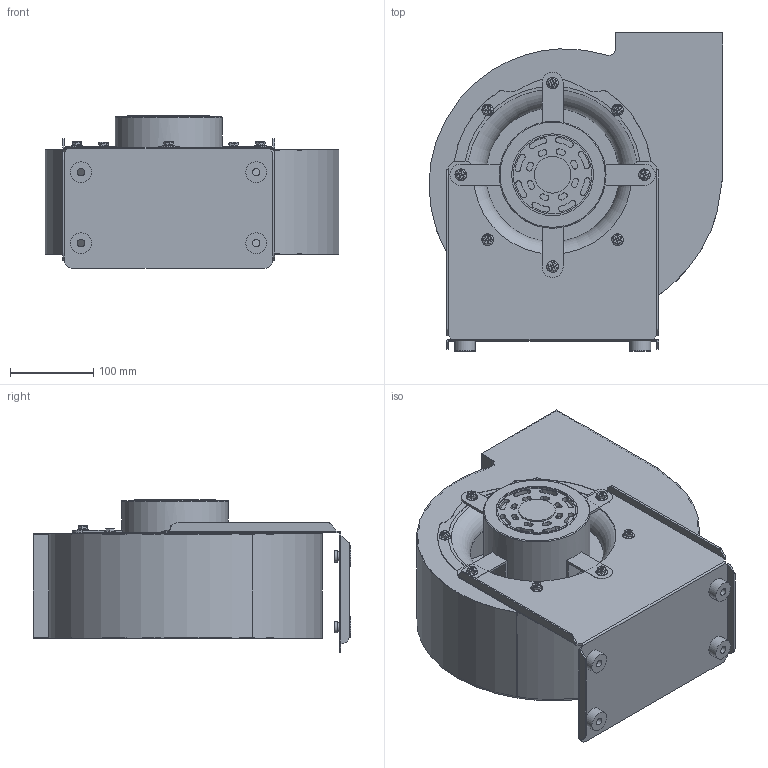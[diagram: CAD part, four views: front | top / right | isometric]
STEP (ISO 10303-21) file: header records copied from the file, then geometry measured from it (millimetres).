
FILE_DESCRIPTION(/* description */ ('Unknown'),/* implementation_level */ '2;1');
FILE_NAME(/* name */ 'CY200BK2P3V-M',/* time_stamp */ '2026-05-06T15:30:45+08:00',/* author */ ('Unknown'),/* organization */ ('Unknown'),/* preprocessor_version */ 'ST-DEVELOPER v20',/* originating_system */ 'Solid Edge',/* authorisation */ 'Unknown');
FILE_SCHEMA (('AUTOMOTIVE_DESIGN {1 0 10303 214 3 1 1}'));
Length unit declared in the file: millimetre
Products named in the file (8): CY200BK2P3V-M; CY200B-01-2; CY200N-08; CY200BK-07; M6 乖櫳?; JM190N2P3-EG; M6x1.0X10L 有頭外六; CYDM-08-2-NOVA
Assembly tree (17 placements, depth 2):
  CY200BK2P3V-M
    CY200B-01-2
    CY200N-08
    CY200BK-07
    M6 乖櫳?
    JM190N2P3-EG
    M6x1.0X10L 有頭外六  x8
    CYDM-08-2-NOVA  x4
Bounding box: 352.25 x 381 x 182.5 mm (x, y, z)
Volume: 2310990.3 mm3; surface area: 934289 mm2
Topology: 17 solids, 17 shells, 684 faces, 1654 edges, 1072 vertices
Faces by surface type: cylinder 322, plane 318, bspline 22, torus 22
Full cylindrical faces by diameter (mm): 4.917 x8, 6.5 x9, 8 x5, 9 x4, 11 x4, 12 x1, 12.1 x4, 14 x5, 25 x4, 44 x2, 94 x2, 98 x2, 128 x1, 205 x1
Entity records: 14429 total; most frequent: CARTESIAN_POINT 4651, DIRECTION 2145, ORIENTED_EDGE 1800, EDGE_CURVE 900, AXIS2_PLACEMENT_3D 869, VERTEX_POINT 616, EDGE_LOOP 556, FACE_BOUND 556
